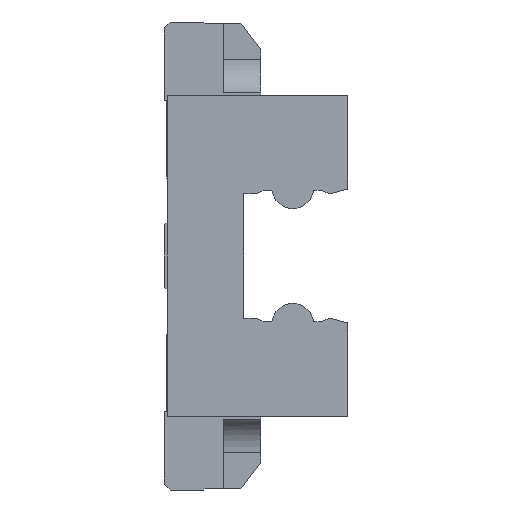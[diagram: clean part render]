
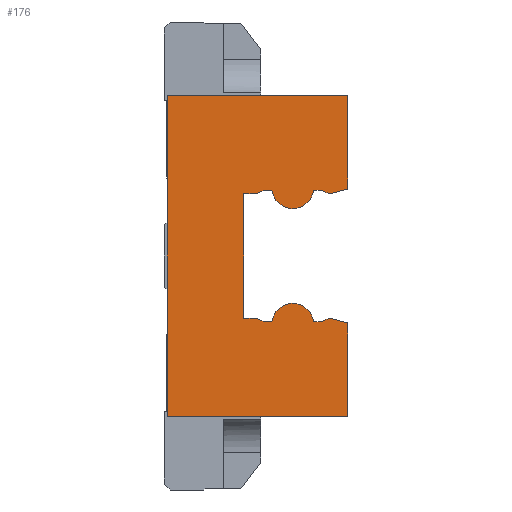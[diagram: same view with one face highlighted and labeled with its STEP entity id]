
A CAD part, left-side view. The second image highlights one B-rep face of the part: STEP entity #176.
In plain terms, the highlighted planar face has unit normal (-1, 0, 0).
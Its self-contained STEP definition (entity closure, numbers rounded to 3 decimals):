
#176 = ADVANCED_FACE( '', ( #388 ), #389, .F. );
#388 = FACE_OUTER_BOUND( '', #600, .T. );
#389 = PLANE( '', #601 );
#600 = EDGE_LOOP( '', ( #1429, #1430, #1431, #1432, #1433, #1434, #1435, #1436, #1437, #1438, #1439, #1440, #1441, #1442, #1443, #1444, #1445, #1446, #1447, #1448 ) );
#601 = AXIS2_PLACEMENT_3D( '', #1449, #1450, #1451 );
#1429 = ORIENTED_EDGE( '', *, *, #1723, .F. );
#1430 = ORIENTED_EDGE( '', *, *, #1670, .F. );
#1431 = ORIENTED_EDGE( '', *, *, #1673, .F. );
#1432 = ORIENTED_EDGE( '', *, *, #1665, .F. );
#1433 = ORIENTED_EDGE( '', *, *, #1676, .F. );
#1434 = ORIENTED_EDGE( '', *, *, #1679, .F. );
#1435 = ORIENTED_EDGE( '', *, *, #1682, .F. );
#1436 = ORIENTED_EDGE( '', *, *, #1685, .F. );
#1437 = ORIENTED_EDGE( '', *, *, #1688, .F. );
#1438 = ORIENTED_EDGE( '', *, *, #1691, .F. );
#1439 = ORIENTED_EDGE( '', *, *, #1694, .F. );
#1440 = ORIENTED_EDGE( '', *, *, #1697, .F. );
#1441 = ORIENTED_EDGE( '', *, *, #1700, .F. );
#1442 = ORIENTED_EDGE( '', *, *, #1703, .F. );
#1443 = ORIENTED_EDGE( '', *, *, #1706, .F. );
#1444 = ORIENTED_EDGE( '', *, *, #1709, .F. );
#1445 = ORIENTED_EDGE( '', *, *, #1712, .F. );
#1446 = ORIENTED_EDGE( '', *, *, #1715, .F. );
#1447 = ORIENTED_EDGE( '', *, *, #1718, .F. );
#1448 = ORIENTED_EDGE( '', *, *, #1721, .F. );
#1449 = CARTESIAN_POINT( '', ( 0., 0., 0. ) );
#1450 = DIRECTION( '', ( 1., 0., 0. ) );
#1451 = DIRECTION( '', ( 0., 0., -1. ) );
#1665 = EDGE_CURVE( '', #2070, #2072, #2073, .T. );
#1670 = EDGE_CURVE( '', #2078, #2080, #2081, .T. );
#1673 = EDGE_CURVE( '', #2072, #2078, #2085, .T. );
#1676 = EDGE_CURVE( '', #2088, #2070, #2090, .T. );
#1679 = EDGE_CURVE( '', #2093, #2088, #2095, .T. );
#1682 = EDGE_CURVE( '', #2098, #2093, #2100, .T. );
#1685 = EDGE_CURVE( '', #2103, #2098, #2105, .T. );
#1688 = EDGE_CURVE( '', #2108, #2103, #2110, .T. );
#1691 = EDGE_CURVE( '', #2113, #2108, #2115, .T. );
#1694 = EDGE_CURVE( '', #2118, #2113, #2120, .T. );
#1697 = EDGE_CURVE( '', #2123, #2118, #2125, .T. );
#1700 = EDGE_CURVE( '', #2128, #2123, #2130, .T. );
#1703 = EDGE_CURVE( '', #2133, #2128, #2135, .T. );
#1706 = EDGE_CURVE( '', #2138, #2133, #2140, .T. );
#1709 = EDGE_CURVE( '', #2143, #2138, #2145, .T. );
#1712 = EDGE_CURVE( '', #2148, #2143, #2150, .T. );
#1715 = EDGE_CURVE( '', #2153, #2148, #2155, .T. );
#1718 = EDGE_CURVE( '', #2158, #2153, #2160, .T. );
#1721 = EDGE_CURVE( '', #2163, #2158, #2165, .T. );
#1723 = EDGE_CURVE( '', #2080, #2163, #2167, .T. );
#2070 = VERTEX_POINT( '', #2682 );
#2072 = VERTEX_POINT( '', #2685 );
#2073 = LINE( '', #2686, #2687 );
#2078 = VERTEX_POINT( '', #2695 );
#2080 = VERTEX_POINT( '', #2698 );
#2081 = LINE( '', #2699, #2700 );
#2085 = LINE( '', #2706, #2707 );
#2088 = VERTEX_POINT( '', #2711 );
#2090 = LINE( '', #2714, #2715 );
#2093 = VERTEX_POINT( '', #2719 );
#2095 = LINE( '', #2722, #2723 );
#2098 = VERTEX_POINT( '', #2727 );
#2100 = LINE( '', #2730, #2731 );
#2103 = VERTEX_POINT( '', #2735 );
#2105 = LINE( '', #2738, #2739 );
#2108 = VERTEX_POINT( '', #2742 );
#2110 = CIRCLE( '', #2745, 2.82 );
#2113 = VERTEX_POINT( '', #2749 );
#2115 = LINE( '', #2752, #2753 );
#2118 = VERTEX_POINT( '', #2757 );
#2120 = LINE( '', #2760, #2761 );
#2123 = VERTEX_POINT( '', #2765 );
#2125 = LINE( '', #2768, #2769 );
#2128 = VERTEX_POINT( '', #2773 );
#2130 = LINE( '', #2776, #2777 );
#2133 = VERTEX_POINT( '', #2781 );
#2135 = LINE( '', #2784, #2785 );
#2138 = VERTEX_POINT( '', #2789 );
#2140 = LINE( '', #2792, #2793 );
#2143 = VERTEX_POINT( '', #2797 );
#2145 = LINE( '', #2800, #2801 );
#2148 = VERTEX_POINT( '', #2804 );
#2150 = CIRCLE( '', #2807, 2.82 );
#2153 = VERTEX_POINT( '', #2811 );
#2155 = LINE( '', #2814, #2815 );
#2158 = VERTEX_POINT( '', #2819 );
#2160 = LINE( '', #2822, #2823 );
#2163 = VERTEX_POINT( '', #2827 );
#2165 = LINE( '', #2830, #2831 );
#2167 = LINE( '', #2834, #2835 );
#2682 = CARTESIAN_POINT( '', ( 0., 0., -21.6 ) );
#2685 = CARTESIAN_POINT( '', ( 0., 24.3, -21.6 ) );
#2686 = CARTESIAN_POINT( '', ( 0., 0., -21.6 ) );
#2687 = VECTOR( '', #3137, 1. );
#2695 = CARTESIAN_POINT( '', ( 0., 24.3, 21.6 ) );
#2698 = CARTESIAN_POINT( '', ( 0., 0., 21.6 ) );
#2699 = CARTESIAN_POINT( '', ( 0., 24.3, 21.6 ) );
#2700 = VECTOR( '', #3142, 1. );
#2706 = CARTESIAN_POINT( '', ( 0., 24.3, -21.6 ) );
#2707 = VECTOR( '', #3145, 1. );
#2711 = CARTESIAN_POINT( '', ( 0., 0., -9.011 ) );
#2714 = CARTESIAN_POINT( '', ( 0., 0., -9.011 ) );
#2715 = VECTOR( '', #3148, 1. );
#2719 = CARTESIAN_POINT( '', ( 0., 2.468, -8.35 ) );
#2722 = CARTESIAN_POINT( '', ( 0., 2.468, -8.35 ) );
#2723 = VECTOR( '', #3151, 1. );
#2727 = CARTESIAN_POINT( '', ( 0., 3.54, -8.85 ) );
#2730 = CARTESIAN_POINT( '', ( 0., 3.54, -8.85 ) );
#2731 = VECTOR( '', #3154, 1. );
#2735 = CARTESIAN_POINT( '', ( 0., 4.602, -8.85 ) );
#2738 = CARTESIAN_POINT( '', ( 0., 4.602, -8.85 ) );
#2739 = VECTOR( '', #3157, 1. );
#2742 = CARTESIAN_POINT( '', ( 0., 10.198, -8.85 ) );
#2745 = AXIS2_PLACEMENT_3D( '', #3162, #3163, #3164 );
#2749 = CARTESIAN_POINT( '', ( 0., 11.238, -8.85 ) );
#2752 = CARTESIAN_POINT( '', ( 0., 11.238, -8.85 ) );
#2753 = VECTOR( '', #3167, 1. );
#2757 = CARTESIAN_POINT( '', ( 0., 12.31, -8.35 ) );
#2760 = CARTESIAN_POINT( '', ( 0., 12.31, -8.35 ) );
#2761 = VECTOR( '', #3170, 1. );
#2765 = CARTESIAN_POINT( '', ( 0., 14., -8.35 ) );
#2768 = CARTESIAN_POINT( '', ( 0., 14., -8.35 ) );
#2769 = VECTOR( '', #3173, 1. );
#2773 = CARTESIAN_POINT( '', ( 0., 14., 8.35 ) );
#2776 = CARTESIAN_POINT( '', ( 0., 14., 8.35 ) );
#2777 = VECTOR( '', #3176, 1. );
#2781 = CARTESIAN_POINT( '', ( 0., 12.31, 8.35 ) );
#2784 = CARTESIAN_POINT( '', ( 0., 12.31, 8.35 ) );
#2785 = VECTOR( '', #3179, 1. );
#2789 = CARTESIAN_POINT( '', ( 0., 11.238, 8.85 ) );
#2792 = CARTESIAN_POINT( '', ( 0., 11.238, 8.85 ) );
#2793 = VECTOR( '', #3182, 1. );
#2797 = CARTESIAN_POINT( '', ( 0., 10.198, 8.85 ) );
#2800 = CARTESIAN_POINT( '', ( 0., 10.198, 8.85 ) );
#2801 = VECTOR( '', #3185, 1. );
#2804 = CARTESIAN_POINT( '', ( 0., 4.602, 8.85 ) );
#2807 = AXIS2_PLACEMENT_3D( '', #3190, #3191, #3192 );
#2811 = CARTESIAN_POINT( '', ( 0., 3.54, 8.85 ) );
#2814 = CARTESIAN_POINT( '', ( 0., 3.54, 8.85 ) );
#2815 = VECTOR( '', #3195, 1. );
#2819 = CARTESIAN_POINT( '', ( 0., 2.468, 8.35 ) );
#2822 = CARTESIAN_POINT( '', ( 0., 2.468, 8.35 ) );
#2823 = VECTOR( '', #3198, 1. );
#2827 = CARTESIAN_POINT( '', ( 0., 0., 9.011 ) );
#2830 = CARTESIAN_POINT( '', ( 0., 0., 9.011 ) );
#2831 = VECTOR( '', #3201, 1. );
#2834 = CARTESIAN_POINT( '', ( 0., 0., 21.6 ) );
#2835 = VECTOR( '', #3203, 1. );
#3137 = DIRECTION( '', ( 0., 1., 0. ) );
#3142 = DIRECTION( '', ( 0., -1., 0. ) );
#3145 = DIRECTION( '', ( 0., 0., 1. ) );
#3148 = DIRECTION( '', ( 0., 0., -1. ) );
#3151 = DIRECTION( '', ( 0., -0.966, -0.259 ) );
#3154 = DIRECTION( '', ( 0., -0.906, 0.423 ) );
#3157 = DIRECTION( '', ( 0., -1., 0. ) );
#3162 = CARTESIAN_POINT( '', ( 0., 7.4, -9.2 ) );
#3163 = DIRECTION( '', ( 1., 0., 0. ) );
#3164 = DIRECTION( '', ( 0., 0.992, 0.124 ) );
#3167 = DIRECTION( '', ( 0., -1., 0. ) );
#3170 = DIRECTION( '', ( 0., -0.906, -0.423 ) );
#3173 = DIRECTION( '', ( 0., -1., 0. ) );
#3176 = DIRECTION( '', ( 0., 0., -1. ) );
#3179 = DIRECTION( '', ( 0., 1., 0. ) );
#3182 = DIRECTION( '', ( 0., 0.906, -0.423 ) );
#3185 = DIRECTION( '', ( 0., 1., 0. ) );
#3190 = CARTESIAN_POINT( '', ( 0., 7.4, 9.2 ) );
#3191 = DIRECTION( '', ( 1., 0., 0. ) );
#3192 = DIRECTION( '', ( 0., -0.992, -0.124 ) );
#3195 = DIRECTION( '', ( 0., 1., 0. ) );
#3198 = DIRECTION( '', ( 0., 0.906, 0.423 ) );
#3201 = DIRECTION( '', ( 0., 0.966, -0.259 ) );
#3203 = DIRECTION( '', ( 0., 0., -1. ) );
